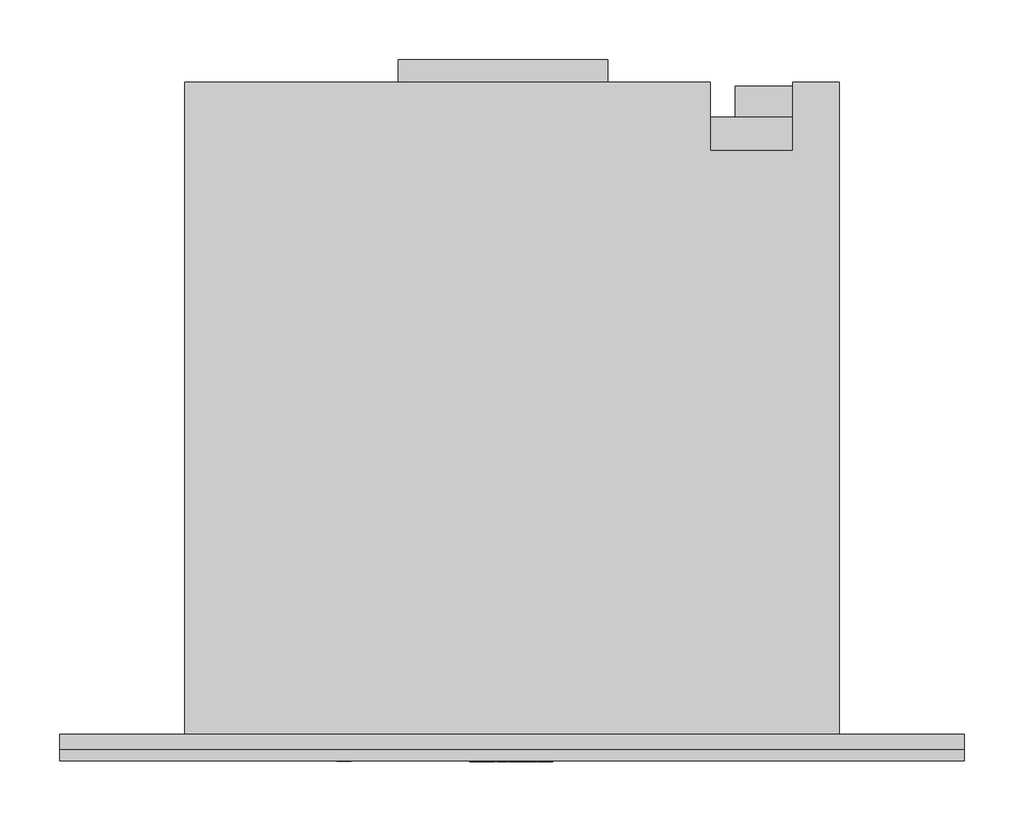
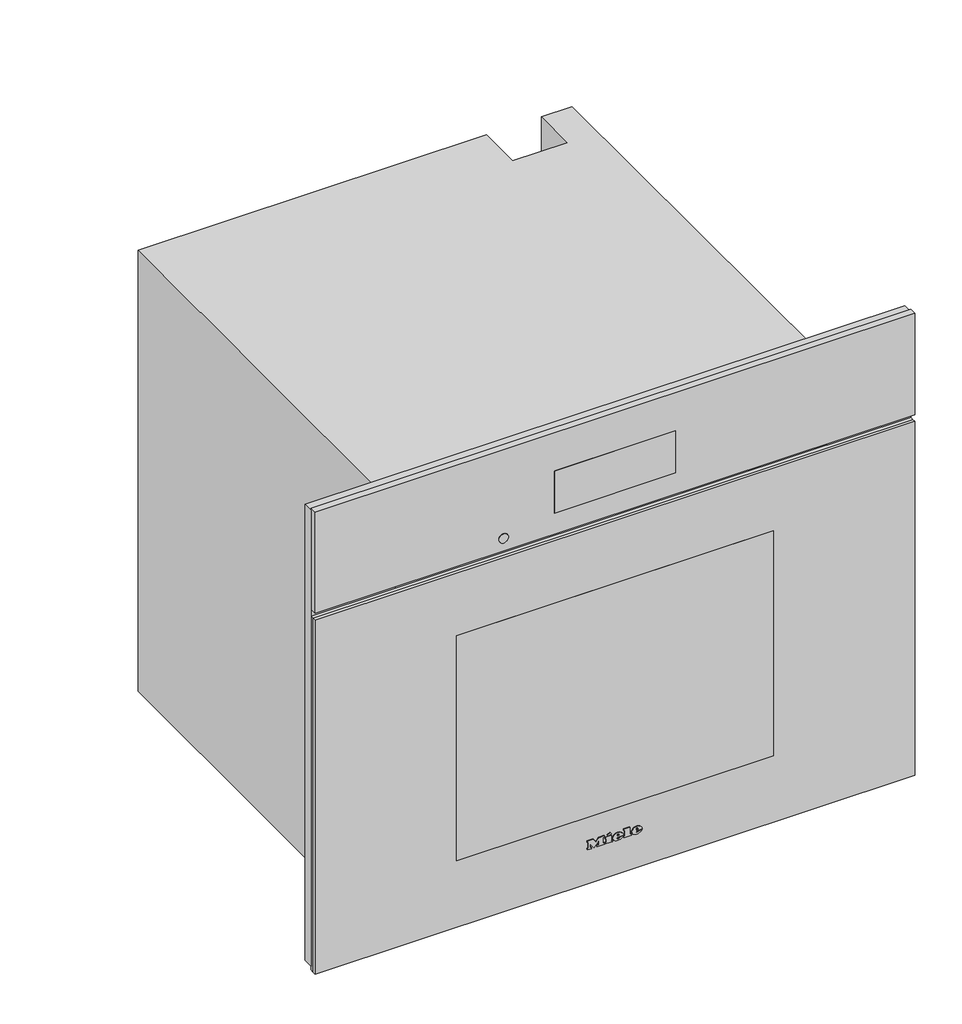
# Not in any storey: 1 proxy.
"""IFC4 building model written with IfcOpenShell, lengths in millimetres."""

import ifcopenshell
import ifcopenshell.guid

model = None  # the IFC model being written
_history = None  # IfcOwnerHistory: only IFC2X3 demands one
_inside = {}  # id of a spatial element -> (the spatial element, [elements in it])
_under = {}  # id of a project, library or spatial element -> (it, [spatial elements below it])
_declared = {}  # id of a project -> (the project, [libraries it declares])
_typed = {}  # id of a type object -> (the type object, [elements of that type])
_made_of = {}  # id of a material, layer set ... -> (it, [elements and type objects made of it])


def new_model(schema):
    """Start an empty IFC model of exactly this schema.

    Asked for "IFC4X3", IfcOpenShell would pick the latest addendum, in which some entities
    have other attributes; the version numbers below select the first issue.
    IFC2X3 requires an IfcOwnerHistory on every rooted entity: one is made here for all.
    """
    global model, _history
    if schema == "IFC4X3":
        model = ifcopenshell.file(schema_version=(4, 3, 0, 0))
    else:
        model = ifcopenshell.file(schema=schema)
    _inside.clear()
    _under.clear()
    _declared.clear()
    _typed.clear()
    _made_of.clear()
    _history = None
    if model.schema == "IFC2X3":
        org = make("IfcOrganization", Name="unknown")
        user = make(
            "IfcPersonAndOrganization",
            ThePerson=make("IfcPerson", FamilyName="unknown"),
            TheOrganization=org,
        )
        app = make(
            "IfcApplication",
            ApplicationDeveloper=org,
            Version="unknown",
            ApplicationFullName="unknown",
            ApplicationIdentifier="unknown",
        )
        _history = make(
            "IfcOwnerHistory",
            OwningUser=user,
            OwningApplication=app,
            ChangeAction="ADDED",
            CreationDate=0,
        )
    return model


def make(cls, **values):
    """One entity of the class cls with the attributes given. An attribute that is None is left unset."""
    return model.create_entity(
        cls, **{name: value for name, value in values.items() if value is not None}
    )


def rooted(cls, **values):
    """An entity with a GlobalId (a new one), such as an element, a storey or a relation."""
    return make(cls, GlobalId=ifcopenshell.guid.new(), OwnerHistory=_history, **values)


def si_unit(unit_type, name, prefix=None):
    """IfcSIUnit, for example si_unit("LENGTHUNIT", "METRE", prefix="MILLI")."""
    return make("IfcSIUnit", UnitType=unit_type, Prefix=prefix, Name=name)


def assignment(units):
    """IfcUnitAssignment: the units of a project."""
    return None if units is None else make("IfcUnitAssignment", Units=units)


def point(xyz):
    """IfcCartesianPoint."""
    return None if xyz is None else make("IfcCartesianPoint", Coordinates=xyz)


def direction(xyz):
    """IfcDirection."""
    return None if xyz is None else make("IfcDirection", DirectionRatios=xyz)


def frame(location, z_axis=None, x_axis=None):
    """IfcAxis2Placement3D, a coordinate frame: its origin and axes. An axis left out is left unset."""
    return make(
        "IfcAxis2Placement3D",
        Location=point(location),
        Axis=direction(z_axis),
        RefDirection=direction(x_axis),
    )


def frame_2d(location, x_axis=None):
    """IfcAxis2Placement2D, a coordinate frame in the plane: its origin and x axis."""
    return make(
        "IfcAxis2Placement2D", Location=point(location), RefDirection=direction(x_axis)
    )


def origin():
    """The frame at (0, 0, 0) with its axes left unset."""
    return frame((0.0, 0.0, 0.0))


def place(relative_to, where):
    """IfcLocalPlacement: puts the frame where relative to a parent placement (None: the world)."""
    return make(
        "IfcLocalPlacement", PlacementRelTo=relative_to, RelativePlacement=where
    )


def context(
    kind, dimensions, precision=None, world=None, true_north=None, identifier=None
):
    """IfcGeometricRepresentationContext, for example the 3D "Model" context."""
    return make(
        "IfcGeometricRepresentationContext",
        ContextIdentifier=identifier,
        ContextType=kind,
        CoordinateSpaceDimension=dimensions,
        Precision=precision,
        WorldCoordinateSystem=world,
        TrueNorth=true_north,
    )


def project(units=None, contexts=None):
    """IfcProject with its units and contexts."""
    return rooted(
        "IfcProject",
        Name="project",
        RepresentationContexts=contexts,
        UnitsInContext=assignment(units),
    )


def spatial(cls, under=None, at=None, **own):
    """A site, building, storey or space (cls), placed at a placement, below another one or the project."""
    s = rooted(cls, ObjectPlacement=at, **own)
    if under is not None:
        _under.setdefault(under.id(), (under, []))[1].append(s)
    return s


def polyline(points):
    """IfcPolyline through the points."""
    return make("IfcPolyline", Points=[point(p) for p in points])


def circle_curve(where, radius):
    """IfcCircle in the frame where."""
    return make("IfcCircle", Position=where, Radius=radius)


def ellipse_curve(where, semi_axis1, semi_axis2):
    """IfcEllipse in the frame where."""
    return make(
        "IfcEllipse", Position=where, SemiAxis1=semi_axis1, SemiAxis2=semi_axis2
    )


def trimmed(basis, trim1, trim2, sense, master):
    """IfcTrimmedCurve: the piece of a basis curve between two trims."""
    return make(
        "IfcTrimmedCurve",
        BasisCurve=basis,
        Trim1=trim1,
        Trim2=trim2,
        SenseAgreement=sense,
        MasterRepresentation=master,
    )


def segment(curve, same_sense, transition):
    """IfcCompositeCurveSegment."""
    return make(
        "IfcCompositeCurveSegment",
        Transition=transition,
        SameSense=same_sense,
        ParentCurve=curve,
    )


def composite_curve(segments, self_intersect=None):
    """IfcCompositeCurve: segments joined end to end."""
    return make("IfcCompositeCurve", Segments=segments, SelfIntersect=self_intersect)


def outline(outer, holes=None, kind="AREA"):
    """IfcArbitraryClosedProfileDef: a profile drawn as a closed curve; with holes, ...WithVoids."""
    if holes is None:
        return make("IfcArbitraryClosedProfileDef", ProfileType=kind, OuterCurve=outer)
    return make(
        "IfcArbitraryProfileDefWithVoids",
        ProfileType=kind,
        OuterCurve=outer,
        InnerCurves=holes,
    )


def extrude(swept, where, along, depth):
    """IfcExtrudedAreaSolid: the profile swept, set in the frame where, extruded along a direction by depth."""
    return make(
        "IfcExtrudedAreaSolid",
        SweptArea=swept,
        Position=where,
        ExtrudedDirection=direction(along),
        Depth=depth,
    )


def faces_of(points, faces, orient=None, outer=None):
    """IfcFace entities. A face is a list of loops; a loop is a list of indices into points, from 0.

    orient and outer hold one flag for each loop. By default every Orientation is true, the
    first loop of a face is its IfcFaceOuterBound and the others are IfcFaceBound.
    """
    made = []
    for i, loops in enumerate(faces):
        bounds = []
        for j, loop in enumerate(loops):
            is_outer = j == 0 if outer is None else outer[i][j]
            bounds.append(
                make(
                    "IfcFaceOuterBound" if is_outer else "IfcFaceBound",
                    Bound=make("IfcPolyLoop", Polygon=[points[k] for k in loop]),
                    Orientation=True if orient is None else orient[i][j],
                )
            )
        made.append(make("IfcFace", Bounds=bounds))
    return made


def faceted_brep(points, faces, orient=None, outer=None, voids=None):
    """IfcFacetedBrep: a solid bounded by flat faces; with voids (closed shells), ...WithVoids."""
    shared = [point(p) for p in points]
    hull = make("IfcClosedShell", CfsFaces=faces_of(shared, faces, orient, outer))
    if voids is None:
        return make("IfcFacetedBrep", Outer=hull)
    return make(
        "IfcFacetedBrepWithVoids",
        Outer=hull,
        Voids=[
            make(cls, CfsFaces=faces_of(shared, fs, o, b)) for cls, fs, o, b in voids
        ],
    )


def shape(context_of_items, identifier, shape_type, items):
    """IfcShapeRepresentation: the items that make up one representation, for example the "Body"."""
    return make(
        "IfcShapeRepresentation",
        ContextOfItems=context_of_items,
        RepresentationIdentifier=identifier,
        RepresentationType=shape_type,
        Items=items,
    )


def source(mapping_origin, context_of_items, identifier, shape_type, items):
    """IfcRepresentationMap: a shape defined once, which mapped items show again and again."""
    return make(
        "IfcRepresentationMap",
        MappingOrigin=mapping_origin,
        MappedRepresentation=shape(context_of_items, identifier, shape_type, items),
    )


def transform(
    local_origin,
    x_axis=None,
    y_axis=None,
    z_axis=None,
    scale=None,
    scale2=None,
    scale3=None,
    uniform=True,
):
    """IfcCartesianTransformationOperator3D, or its non-uniform kind. x_axis, y_axis, z_axis: its Axis1, 2, 3."""
    if uniform:
        return make(
            "IfcCartesianTransformationOperator3D",
            Axis1=direction(x_axis),
            Axis2=direction(y_axis),
            LocalOrigin=point(local_origin),
            Scale=scale,
            Axis3=direction(z_axis),
        )
    return make(
        "IfcCartesianTransformationOperator3DnonUniform",
        Axis1=direction(x_axis),
        Axis2=direction(y_axis),
        LocalOrigin=point(local_origin),
        Scale=scale,
        Axis3=direction(z_axis),
        Scale2=scale2,
        Scale3=scale3,
    )


def mapped(mapping_source, mapping_target):
    """IfcMappedItem: shows the shape of a source again, moved by a transform."""
    return make(
        "IfcMappedItem", MappingSource=mapping_source, MappingTarget=mapping_target
    )


def made_of(thing, what):
    """Note that an element or type object is made of a material, layer set ...; save() writes the relation."""
    if what is not None:
        _made_of.setdefault(what.id(), (what, []))[1].append(thing)
    return thing


def element(
    cls,
    number,
    at=None,
    inside=None,
    cuts=None,
    type_object=None,
    material=None,
    context=None,
    identifier="Body",
    shape_type=None,
    held_by="IfcProductDefinitionShape",
    body=None,
    shapes=None,
    **own,
):
    """One element of the class cls, such as IfcWall. Its Tag is "e" and its number.

    at: its placement. inside: the storey or other place that contains it. cuts: it is an
    opening in that element (IfcRelVoidsElement). A single representation is given by context,
    identifier, shape_type and body (its items); several are given by shapes. held_by: the class
    of the entity that holds the representations. save() writes the other relations.
    """
    e = rooted(cls, Tag="e%d" % number, ObjectPlacement=at, **own)
    if body is not None:
        shapes = [shape(context, identifier, shape_type, body)]
    if shapes is not None:
        e.Representation = make(held_by, Representations=shapes)
    if inside is not None:
        _inside.setdefault(inside.id(), (inside, []))[1].append(e)
    if cuts is not None:
        rooted(
            "IfcRelVoidsElement", RelatingBuildingElement=cuts, RelatedOpeningElement=e
        )
    if type_object is not None:
        _typed.setdefault(type_object.id(), (type_object, []))[1].append(e)
    return made_of(e, material)


def aggregate(whole, parts):
    """IfcRelAggregates: a whole, such as a stair, and the parts it consists of."""
    return rooted("IfcRelAggregates", RelatingObject=whole, RelatedObjects=parts)


def save(model, path):
    """Write the relations noted so far, then the file.

    IfcRelAggregates (storeys below a building ...), IfcRelContainedInSpatialStructure (elements
    in a storey), IfcRelDefinesByType, IfcRelAssociatesMaterial and IfcRelDeclares: one each for
    every whole, place, type object, material and project.
    """
    for whole, parts in _under.values():
        aggregate(whole, parts)
    for where, things in _inside.values():
        rooted(
            "IfcRelContainedInSpatialStructure",
            RelatedElements=things,
            RelatingStructure=where,
        )
    for kind, things in _typed.values():
        rooted("IfcRelDefinesByType", RelatedObjects=things, RelatingType=kind)
    for what, things in _made_of.values():
        rooted("IfcRelAssociatesMaterial", RelatedObjects=things, RelatingMaterial=what)
    for by, libraries in _declared.values():
        rooted("IfcRelDeclares", RelatingContext=by, RelatedDefinitions=libraries)
    model.write(path)


def plane_surface(at):
    """IfcPlane: the flat surface through the origin of the frame at, square to its z axis."""
    return make("IfcPlane", Position=at)


def cylinder_surface(at, radius):
    """IfcCylindricalSurface: all points at the distance radius from the z axis of the frame at."""
    return make("IfcCylindricalSurface", Position=at, Radius=radius)


def revolved_surface(curve, axis_point, axis_direction):
    """IfcSurfaceOfRevolution: the curve turned about the line through axis_point along axis_direction."""
    return make(
        "IfcSurfaceOfRevolution",
        SweptCurve=make("IfcArbitraryOpenProfileDef", ProfileType="CURVE", Curve=curve),
        AxisPosition=make("IfcAxis1Placement", Location=point(axis_point), Axis=direction(axis_direction)),
    )


def extruded_surface(curve, direction_of_extrusion, depth):
    """IfcSurfaceOfLinearExtrusion: the curve pushed along a direction by depth."""
    return make(
        "IfcSurfaceOfLinearExtrusion",
        SweptCurve=make("IfcArbitraryOpenProfileDef", ProfileType="CURVE", Curve=curve),
        ExtrudedDirection=direction(direction_of_extrusion),
        Depth=depth,
    )


def advanced_brep(points, edges, surfaces, faces):
    """IfcAdvancedBrep: a solid bounded by faces that lie on surfaces and meet in shared edges.

    An edge is (start, end): straight between two places in points (the first is 0);
    or (start, end, curve); or (start, end, curve, False) where it runs against its curve.
    A face is (place in surfaces, loops), or (place, loops, False) where it looks against
    its surface's normal. A loop lists edges by number (the first is 1), with a minus sign
    where the edge is run from its end to its start. The first loop is the outer one.
    """
    corners = [point(p) for p in points]
    vertices = [make("IfcVertexPoint", VertexGeometry=c) for c in corners]
    made = []
    for start, end, *more in edges:
        made.append(
            make(
                "IfcEdgeCurve",
                EdgeStart=vertices[start],
                EdgeEnd=vertices[end],
                EdgeGeometry=more[0] if more else make("IfcPolyline", Points=[corners[start], corners[end]]),
                SameSense=more[1] if len(more) > 1 else True,
            )
        )
    hull = []
    for where, loops, *sense in faces:
        bounds = []
        for j, loop in enumerate(loops):
            ring = [make("IfcOrientedEdge", EdgeElement=made[abs(k) - 1], Orientation=k > 0) for k in loop]
            bounds.append(
                make(
                    "IfcFaceOuterBound" if j == 0 else "IfcFaceBound",
                    Bound=make("IfcEdgeLoop", EdgeList=ring),
                    Orientation=True,
                )
            )
        hull.append(make("IfcAdvancedFace", Bounds=bounds, FaceSurface=surfaces[where], SameSense=sense[0] if sense else True))
    return make("IfcAdvancedBrep", Outer=make("IfcClosedShell", CfsFaces=hull))


def specialty_equipment_e7a922d9(model_context):
    return source(origin(), model_context, "Body", "SolidModel", [
        faceted_brep([(378.5, -13.0, 617.0), (-378.5, -13.0, 617.0), (-378.5, -13.0, 9.0), (-272.5, -13.0, 9.0), (-272.5, -13.0, 485.0), (272.5, -13.0, 485.0), (272.5, -13.0, 9.0), (378.5, -13.0, 9.0), (378.5, 0.0, 617.0), (378.5, 0.0, 9.0), (-378.5, 0.0, 9.0), (-378.5, 0.0, 617.0), (231.0, 0.0, 61.0), (231.0, 0.0, 411.0), (-231.0, 0.0, 411.0), (-231.0, 0.0, 61.0), (272.5, -5.0, 9.0), (-272.5, -5.0, 9.0), (-272.5, -5.0, 485.0), (272.5, -5.0, 485.0), (231.0, -5.0, 411.0), (231.0, -5.0, 61.0), (-231.0, -5.0, 61.0), (-231.0, -5.0, 411.0)], [[[0, 1, 2, 3, 4, 5, 6, 7]], [[8, 9, 10, 11], [12, 13, 14, 15]], [[1, 0, 8, 11]], [[2, 1, 11, 10]], [[10, 9, 7, 6, 16, 17, 3, 2]], [[0, 7, 9, 8]], [[18, 19, 5, 4]], [[18, 4, 3, 17]], [[5, 19, 16, 6]], [[19, 18, 17, 16], [20, 21, 22, 23]], [[20, 13, 12, 21]], [[21, 12, 15, 22]], [[22, 15, 14, 23]], [[13, 20, 23, 14]]]),
        extrude(outline(polyline([(-95.0, 565.0), (80.0, 565.0), (80.0, 546.0), (-95.0, 546.0), (-95.0, 565.0)])), frame((0.0, 0.0, 311.0), z_axis=(0.0, 0.0, 1.0), x_axis=(1.0, 0.0, 0.0)), (0.0, 0.0, 1.0), 1.0),
        extrude(outline(polyline([(218.8383288, 522.0), (225.1236409, 522.0), (225.1236409, 511.9492425), (223.8571792, 511.9492425), (223.8571792, 520.7409796), (218.8383288, 520.7409796), (218.8383288, 522.0)])), frame((0.0, 0.0, 272.0), z_axis=(0.0, 0.0, 1.0), x_axis=(1.0, 0.0, 0.0)), (0.0, 0.0, 1.0), 1.0),
        extrude(outline(polyline([(227.0, 522.0), (234.3797826, 522.0), (234.3797826, 511.9503529), (227.15422, 511.9503529), (227.15422, 513.220938), (233.1355215, 513.220938), (233.1355215, 516.1975645), (227.4863097, 516.1975645), (227.4863097, 517.449242), (233.1355215, 517.449242), (233.1355215, 520.7448633), (227.0, 520.7448633), (227.0, 522.0)])), frame((0.0, 0.0, 272.0), z_axis=(0.0, 0.0, 1.0), x_axis=(1.0, 0.0, 0.0)), (0.0, 0.0, 1.0), 1.0),
        extrude(outline(composite_curve([segment(trimmed(circle_curve(frame_2d((227.0, 517.0)), 7.5), [point((219.5, 517.0))], [point((234.5, 517.0))], False, "CARTESIAN"), True, "CONTINUOUS"), segment(trimmed(circle_curve(frame_2d((227.0, 517.0)), 7.5), [point((234.5, 517.0))], [point((219.5, 517.0))], False, "CARTESIAN"), True, "CONTINUOUS")], self_intersect=False)), frame((0.0, 0.0, 273.0), z_axis=(0.0, 0.0, 1.0), x_axis=(1.0, 0.0, 0.0)), (0.0, 0.0, 1.0), 30.0),
        extrude(outline(polyline([(266.0, 517.0), (187.0, 517.0), (187.0, 543.0), (266.0, 543.0), (266.0, 517.0)])), frame((0.0, 0.0, 303.0), z_axis=(0.0, 0.0, 1.0), x_axis=(1.0, 0.0, 0.0)), (0.0, 0.0, 1.0), 111.0),
        faceted_brep([(-274.0, 546.0, 0.0), (-274.0, 546.0, 588.0), (166.0, 546.0, 588.0), (166.0, 546.0, 0.0), (235.0, 546.0, 588.0), (274.0, 546.0, 588.0), (274.0, 546.0, 478.0), (235.0, 546.0, 478.0), (274.0, 0.0, 588.0), (-274.0, 0.0, 588.0), (-274.0, 0.0, 0.0), (274.0, 0.0, 0.0), (231.0, 0.0, 411.0), (231.0, 0.0, 61.0), (-231.0, 0.0, 61.0), (-231.0, 0.0, 411.0), (235.0, 489.0, 588.0), (166.0, 489.0, 588.0), (166.0, 517.0, 0.0), (274.0, 517.0, 0.0), (274.0, 517.0, 478.0), (231.0, 411.0, 411.0), (-231.0, 411.0, 411.0), (-231.0, 411.0, 61.0), (231.0, 411.0, 61.0), (235.0, 489.0, 477.0), (166.0, 489.0, 477.0), (166.0, 517.0, 477.0), (235.0, 517.0, 477.0), (235.0, 517.0, 478.0)], [[[0, 1, 2, 3]], [[4, 5, 6, 7]], [[8, 9, 10, 11], [12, 13, 14, 15]], [[9, 8, 5, 4, 16, 17, 2, 1]], [[1, 0, 10, 9]], [[11, 10, 0, 3, 18, 19]], [[8, 11, 19, 20, 6, 5]], [[21, 22, 23, 24]], [[21, 24, 13, 12]], [[24, 23, 14, 13]], [[23, 22, 15, 14]], [[22, 21, 12, 15]], [[16, 25, 26, 17]], [[17, 26, 27, 18, 3, 2]], [[26, 25, 28, 27]], [[25, 16, 4, 7, 29, 28]], [[29, 20, 19, 18, 27, 28]], [[20, 29, 7, 6]]]),
        advanced_brep(
        [(26.2998, -23.0, 52.7018), (26.2998, -23.0, 53.8532), (33.9264, -23.0, 53.8532), (20.6568, -23.0, 53.8532), (23.7918, -23.0, 50.0), (33.7326, -23.0, 52.7018), (30.2898, -23.0, 52.7018), (27.5766, -23.0, 51.425), (26.2998, -23.0, 55.3124), (26.2998, -23.0, 56.555), (28.2492, -23.0, 56.555), (28.2492, -23.0, 55.3124), (26.2998, -22.0, 52.7018), (27.5766, -22.0, 51.425), (30.2898, -22.0, 52.7018), (33.7326, -22.0, 52.7018), (23.7918, -22.0, 50.0), (20.6568, -22.0, 53.8532), (33.9264, -22.0, 53.8532), (26.2998, -22.0, 53.8532), (26.2998, -22.0, 55.3124), (28.2492, -22.0, 55.3124), (28.2492, -22.0, 56.555), (26.2998, -22.0, 56.555)],
        [
            (0, 1),
            (1, 2),
            (2, 3, ellipse_curve(frame((27.2916, -23.0, 53.8532), z_axis=(0.0, -1.0, 0.0), x_axis=(-1.0, 0.0, 0.0)), 6.6348, 5.4834)),
            (3, 4, circle_curve(frame((25.0686622, -23.0, 54.2408), z_axis=(0.0, -1.0, 0.0), x_axis=(0.0, 0.0, -1.0)), 4.4288556)),
            (4, 5, circle_curve(frame((27.1587808, -23.0, 57.2504), z_axis=(0.0, -1.0, 0.0), x_axis=(0.0, 0.0, -1.0)), 7.9940516)),
            (5, 6),
            (6, 7, circle_curve(frame((28.1338588, -23.0, 53.762), z_axis=(0.0, 1.0, 0.0), x_axis=(0.0, 0.0, -1.0)), 2.4025208)),
            (7, 0, circle_curve(frame((27.5766, -23.0, 52.7018), z_axis=(0.0, 1.0, 0.0), x_axis=(0.0, 0.0, -1.0)), 1.2768)),
            (8, 9),
            (9, 10, circle_curve(frame((27.2745, -23.0, 56.555), z_axis=(0.0, 1.0, 0.0), x_axis=(0.0, 0.0, -1.0)), 0.9747)),
            (10, 11),
            (11, 8),
            (12, 13, circle_curve(frame((27.5766, -22.0, 52.7018), z_axis=(0.0, -1.0, 0.0), x_axis=(0.0, 0.0, -1.0)), 1.2768)),
            (13, 14, circle_curve(frame((28.1338588, -22.0, 53.762), z_axis=(0.0, -1.0, 0.0), x_axis=(0.0, 0.0, -1.0)), 2.4025208)),
            (14, 15),
            (15, 16, circle_curve(frame((27.1587808, -22.0, 57.2504), z_axis=(0.0, 1.0, 0.0), x_axis=(0.0, 0.0, -1.0)), 7.9940516)),
            (16, 17, circle_curve(frame((25.0686622, -22.0, 54.2408), z_axis=(0.0, 1.0, 0.0), x_axis=(0.0, 0.0, -1.0)), 4.4288556)),
            (17, 18, ellipse_curve(frame((27.2916, -22.0, 53.8532), z_axis=(0.0, 1.0, 0.0), x_axis=(-1.0, 0.0, 0.0)), 6.6348, 5.4834)),
            (18, 19),
            (19, 12),
            (20, 21),
            (21, 22),
            (22, 23, circle_curve(frame((27.2745, -22.0, 56.555), z_axis=(0.0, -1.0, 0.0), x_axis=(0.0, 0.0, -1.0)), 0.9747)),
            (23, 20),
            (0, 12),
            (19, 1),
            (18, 2),
            (5, 15),
            (14, 6),
            (17, 3),
            (13, 7),
            (16, 4),
            (8, 20),
            (23, 9),
            (22, 10),
            (21, 11),
        ],
        [
            plane_surface(frame((26.2998, -23.0, 53.8532), z_axis=(0.0, -1.0, 0.0), x_axis=(0.0, 0.0, 1.0))),
            plane_surface(frame((26.2998, -22.0, 53.8532), z_axis=(0.0, 1.0, 0.0), x_axis=(0.0, 0.0, -1.0))),
            plane_surface(frame((26.2998, -23.0, 52.7018), z_axis=(1.0, 0.0, 0.0), x_axis=(0.0, 1.0, 0.0))),
            plane_surface(frame((26.2998, -23.0, 53.8532), z_axis=(0.0, 0.0, -1.0), x_axis=(0.0, 1.0, 0.0))),
            plane_surface(frame((33.7326, -23.0, 52.7018), z_axis=(0.0, 0.0, 1.0), x_axis=(0.0, 1.0, 0.0))),
            extruded_surface(trimmed(ellipse_curve(frame((27.2916, -21.0, 53.8532), z_axis=(0.0, -1.0, 0.0), x_axis=(-1.0, 0.0, 0.0)), 6.6348, 5.4834), [point((33.9264, -21.0, 53.8532))], [point((20.6568, -21.0, 53.8532))], True, "CARTESIAN"), (0.0, -1.0, 0.0), 1.0),
            revolved_surface(polyline([(28.1338588, -22.0, 51.3594792), (28.1338588, -23.0, 51.3594792)]), (28.1338588, -22.0, 53.762), (0.0, 1.0, 0.0)),
            revolved_surface(polyline([(27.5766, -22.0, 51.425), (27.5766, -23.0, 51.425)]), (27.5766, -22.0, 52.7018), (0.0, 1.0, 0.0)),
            cylinder_surface(frame((25.0686622, -22.0, 54.2408), z_axis=(0.0, -1.0, 0.0), x_axis=(0.0, 0.0, -1.0)), 4.4288556),
            cylinder_surface(frame((27.1587808, -22.0, 57.2504), z_axis=(0.0, -1.0, 0.0), x_axis=(0.0, 0.0, -1.0)), 7.9940516),
            plane_surface(frame((26.2998, -23.0, 55.3124), z_axis=(1.0, 0.0, 0.0), x_axis=(0.0, 1.0, 0.0))),
            revolved_surface(polyline([(27.2745, -22.0, 55.5803), (27.2745, -23.0, 55.5803)]), (27.2745, -22.0, 56.555), (0.0, 1.0, 0.0)),
            plane_surface(frame((28.2492, -23.0, 56.555), z_axis=(-1.0, 0.0, 0.0), x_axis=(0.0, 1.0, 0.0))),
            plane_surface(frame((28.2492, -23.0, 55.3124), z_axis=(0.0, 0.0, 1.0), x_axis=(0.0, 1.0, 0.0))),
        ],
        [
            (0, [[1, 2, 3, 4, 5, 6, 7, 8], [9, 10, 11, 12]]),
            (1, [[13, 14, 15, 16, 17, 18, 19, 20], [21, 22, 23, 24]]),
            (2, [[-1, 25, -20, 26]]),
            (3, [[-2, -26, -19, 27]]),
            (4, [[-6, 28, -15, 29]]),
            (5, [[-3, -27, -18, 30]]),
            (6, [[-7, -29, -14, 31]]),
            (7, [[-8, -31, -13, -25]]),
            (8, [[-4, -30, -17, 32]]),
            (9, [[-5, -32, -16, -28]]),
            (10, [[-9, 33, -24, 34]]),
            (11, [[-10, -34, -23, 35]]),
            (12, [[-11, -35, -22, 36]]),
            (13, [[-12, -36, -21, -33]]),
        ],
    ),
        advanced_brep(
        [(2.508, -23.0, 52.7018), (2.508, -23.0, 53.8532), (10.1346, -23.0, 53.8532), (-3.135, -23.0, 53.8532), (0.0, -23.0, 50.0), (9.9408, -23.0, 52.7018), (6.498, -23.0, 52.7018), (3.7848, -23.0, 51.425), (2.508, -23.0, 55.3124), (2.508, -23.0, 56.555), (4.4574, -23.0, 56.555), (4.4574, -23.0, 55.3124), (2.508, -22.0, 52.7018), (3.7848, -22.0, 51.425), (6.498, -22.0, 52.7018), (9.9408, -22.0, 52.7018), (0.0, -22.0, 50.0), (-3.135, -22.0, 53.8532), (10.1346, -22.0, 53.8532), (2.508, -22.0, 53.8532), (2.508, -22.0, 55.3124), (4.4574, -22.0, 55.3124), (4.4574, -22.0, 56.555), (2.508, -22.0, 56.555)],
        [
            (0, 1),
            (1, 2),
            (2, 3, ellipse_curve(frame((3.4998, -23.0, 53.8532), z_axis=(0.0, -1.0, 0.0), x_axis=(-1.0, 0.0, 0.0)), 6.6348, 5.4834)),
            (3, 4, circle_curve(frame((1.2768622, -23.0, 54.2408), z_axis=(0.0, -1.0, 0.0), x_axis=(0.0, 0.0, -1.0)), 4.4288556)),
            (4, 5, circle_curve(frame((3.3669808, -23.0, 57.2504), z_axis=(0.0, -1.0, 0.0), x_axis=(0.0, 0.0, -1.0)), 7.9940516)),
            (5, 6),
            (6, 7, circle_curve(frame((4.3420588, -23.0, 53.762), z_axis=(0.0, 1.0, 0.0), x_axis=(0.0, 0.0, -1.0)), 2.4025208)),
            (7, 0, circle_curve(frame((3.7848, -23.0, 52.7018), z_axis=(0.0, 1.0, 0.0), x_axis=(0.0, 0.0, -1.0)), 1.2768)),
            (8, 9),
            (9, 10, circle_curve(frame((3.4827, -23.0, 56.555), z_axis=(0.0, 1.0, 0.0), x_axis=(0.0, 0.0, -1.0)), 0.9747)),
            (10, 11),
            (11, 8),
            (12, 13, circle_curve(frame((3.7848, -22.0, 52.7018), z_axis=(0.0, -1.0, 0.0), x_axis=(0.0, 0.0, -1.0)), 1.2768)),
            (13, 14, circle_curve(frame((4.3420588, -22.0, 53.762), z_axis=(0.0, -1.0, 0.0), x_axis=(0.0, 0.0, -1.0)), 2.4025208)),
            (14, 15),
            (15, 16, circle_curve(frame((3.3669808, -22.0, 57.2504), z_axis=(0.0, 1.0, 0.0), x_axis=(0.0, 0.0, -1.0)), 7.9940516)),
            (16, 17, circle_curve(frame((1.2768622, -22.0, 54.2408), z_axis=(0.0, 1.0, 0.0), x_axis=(0.0, 0.0, -1.0)), 4.4288556)),
            (17, 18, ellipse_curve(frame((3.4998, -22.0, 53.8532), z_axis=(0.0, 1.0, 0.0), x_axis=(-1.0, 0.0, 0.0)), 6.6348, 5.4834)),
            (18, 19),
            (19, 12),
            (20, 21),
            (21, 22),
            (22, 23, circle_curve(frame((3.4827, -22.0, 56.555), z_axis=(0.0, -1.0, 0.0), x_axis=(0.0, 0.0, -1.0)), 0.9747)),
            (23, 20),
            (0, 12),
            (19, 1),
            (18, 2),
            (5, 15),
            (14, 6),
            (17, 3),
            (13, 7),
            (16, 4),
            (8, 20),
            (23, 9),
            (22, 10),
            (21, 11),
        ],
        [
            plane_surface(frame((2.508, -23.0, 53.8532), z_axis=(0.0, -1.0, 0.0), x_axis=(0.0, 0.0, 1.0))),
            plane_surface(frame((2.508, -22.0, 53.8532), z_axis=(0.0, 1.0, 0.0), x_axis=(0.0, 0.0, -1.0))),
            plane_surface(frame((2.508, -23.0, 52.7018), z_axis=(1.0, 0.0, 0.0), x_axis=(0.0, 1.0, 0.0))),
            plane_surface(frame((2.508, -23.0, 53.8532), z_axis=(0.0, 0.0, -1.0), x_axis=(0.0, 1.0, 0.0))),
            plane_surface(frame((9.9408, -23.0, 52.7018), z_axis=(0.0, 0.0, 1.0), x_axis=(0.0, 1.0, 0.0))),
            extruded_surface(trimmed(ellipse_curve(frame((3.4998, -21.0, 53.8532), z_axis=(0.0, -1.0, 0.0), x_axis=(-1.0, 0.0, 0.0)), 6.6348, 5.4834), [point((10.1346, -21.0, 53.8532))], [point((-3.135, -21.0, 53.8532))], True, "CARTESIAN"), (0.0, -1.0, 0.0), 1.0),
            revolved_surface(polyline([(4.3420588, -22.0, 51.3594792), (4.3420588, -23.0, 51.3594792)]), (4.3420588, -22.0, 53.762), (0.0, 1.0, 0.0)),
            revolved_surface(polyline([(3.7848, -22.0, 51.425), (3.7848, -23.0, 51.425)]), (3.7848, -22.0, 52.7018), (0.0, 1.0, 0.0)),
            cylinder_surface(frame((1.2768622, -22.0, 54.2408), z_axis=(0.0, -1.0, 0.0), x_axis=(0.0, 0.0, -1.0)), 4.4288556),
            cylinder_surface(frame((3.3669808, -22.0, 57.2504), z_axis=(0.0, -1.0, 0.0), x_axis=(0.0, 0.0, -1.0)), 7.9940516),
            plane_surface(frame((2.508, -23.0, 55.3124), z_axis=(1.0, 0.0, 0.0), x_axis=(0.0, 1.0, 0.0))),
            revolved_surface(polyline([(3.4827, -22.0, 55.5803), (3.4827, -23.0, 55.5803)]), (3.4827, -22.0, 56.555), (0.0, 1.0, 0.0)),
            plane_surface(frame((4.4574, -23.0, 56.555), z_axis=(-1.0, 0.0, 0.0), x_axis=(0.0, 1.0, 0.0))),
            plane_surface(frame((4.4574, -23.0, 55.3124), z_axis=(0.0, 0.0, 1.0), x_axis=(0.0, 1.0, 0.0))),
        ],
        [
            (0, [[1, 2, 3, 4, 5, 6, 7, 8], [9, 10, 11, 12]]),
            (1, [[13, 14, 15, 16, 17, 18, 19, 20], [21, 22, 23, 24]]),
            (2, [[-1, 25, -20, 26]]),
            (3, [[-2, -26, -19, 27]]),
            (4, [[-6, 28, -15, 29]]),
            (5, [[-3, -27, -18, 30]]),
            (6, [[-7, -29, -14, 31]]),
            (7, [[-8, -31, -13, -25]]),
            (8, [[-4, -30, -17, 32]]),
            (9, [[-5, -32, -16, -28]]),
            (10, [[-9, 33, -24, 34]]),
            (11, [[-10, -34, -23, 35]]),
            (12, [[-11, -35, -22, 36]]),
            (13, [[-12, -36, -21, -33]]),
        ],
    ),
        extrude(outline(polyline([(60.7274, -9.9522), (58.8806, -9.0858), (60.6818, -5.2212), (62.5286, -6.0762), (60.7274, -9.9522)])), frame((0.0, -23.0, 0.0), z_axis=(0.0, 1.0, 0.0), x_axis=(0.0, 0.0, 1.0)), (0.0, 0.0, 1.0), 1.0),
        extrude(outline(polyline([(58.6298, -12.768), (56.5892, -12.768), (56.5892, -11.4114), (51.9152, -11.4114), (51.9152, -12.768), (50.0, -12.768), (50.0, -3.7734), (51.9152, -3.7734), (51.9152, -5.0958), (58.6298, -5.0958), (58.6298, -12.768)])), frame((0.0, -23.0, 0.0), z_axis=(0.0, 1.0, 0.0), x_axis=(0.0, 0.0, 1.0)), (0.0, 0.0, 1.0), 1.0),
        extrude(outline(polyline([(59.5418, 10.773), (59.5418, 12.141), (51.9152, 12.141), (51.9152, 10.773), (50.0, 10.773), (50.0, 20.0184), (51.9152, 20.0184), (51.9152, 18.6162), (61.4, 18.6162), (61.4, 10.773), (59.5418, 10.773)])), frame((0.0, -23.0, 0.0), z_axis=(0.0, 1.0, 0.0), x_axis=(0.0, 0.0, 1.0)), (0.0, 0.0, 1.0), 1.0),
        extrude(outline(polyline([(59.5418, -35.4882), (59.5418, -34.1088), (51.9152, -34.1088), (51.9152, -35.4882), (50.0, -35.4882), (50.0, -30.4722), (51.9152, -30.4722), (51.9152, -31.8402), (56.7429247, -31.8402), (50.0, -26.7444), (56.9402223, -21.6258), (51.9152, -21.6258), (51.9152, -23.028), (50.0, -23.028), (50.0, -13.9308), (51.9152, -13.9308), (51.9152, -15.3786), (59.5418, -15.3786), (59.5418, -13.9308), (61.4, -13.9308), (61.4, -20.8734), (57.125, -24.2022), (61.4, -27.5424), (61.4, -35.4882), (59.5418, -35.4882)])), frame((0.0, -23.0, 0.0), z_axis=(0.0, 1.0, 0.0), x_axis=(0.0, 0.0, 1.0)), (0.0, 0.0, 1.0), 1.0),
        extrude(outline(composite_curve([segment(trimmed(circle_curve(frame_2d((502.0, -140.5745637)), 6.0), [point((502.0, -146.5745637))], [point((502.0, -134.5745637))], False, "CARTESIAN"), True, "CONTINUOUS"), segment(trimmed(circle_curve(frame_2d((502.0, -140.5745637)), 6.0), [point((502.0, -134.5745637))], [point((502.0, -146.5745637))], False, "CARTESIAN"), True, "CONTINUOUS")], self_intersect=False)), frame((0.0, -22.5, 0.0), z_axis=(0.0, 1.0, 0.0), x_axis=(0.0, 0.0, 1.0)), (0.0, 0.0, 1.0), 1.0),
        extrude(outline(polyline([(-76.5, -21.0), (76.5, -21.0), (76.5, -22.0), (-76.5, -22.0), (-76.5, -21.0)])), frame((0.0, 0.0, 513.0), z_axis=(0.0, 0.0, 1.0), x_axis=(1.0, 0.0, 0.0)), (0.0, 0.0, 1.0), 56.0),
        faceted_brep([(378.5, -22.0, 620.0), (-378.5, -22.0, 620.0), (-378.5, -22.0, 485.0), (378.5, -22.0, 485.0), (76.5, -22.0, 569.0), (76.5, -22.0, 513.0), (-76.5, -22.0, 513.0), (-76.5, -22.0, 569.0), (378.5, -13.0, 620.0), (378.5, -13.0, 485.0), (-378.5, -13.0, 485.0), (-378.5, -13.0, 620.0), (76.5, -21.0, 569.0), (-76.5, -21.0, 569.0), (-76.5, -21.0, 513.0), (76.5, -21.0, 513.0)], [[[0, 1, 2, 3], [4, 5, 6, 7]], [[8, 9, 10, 11]], [[1, 0, 8, 11]], [[2, 1, 11, 10]], [[3, 2, 10, 9]], [[0, 3, 9, 8]], [[12, 13, 14, 15]], [[12, 15, 5, 4]], [[15, 14, 6, 5]], [[14, 13, 7, 6]], [[13, 12, 4, 7]]]),
        extrude(outline(polyline([(200.0, -22.0), (-200.0, -22.0), (-200.0, -18.0), (200.0, -18.0), (200.0, -22.0)])), frame((0.0, 0.0, 92.5), z_axis=(0.0, 0.0, 1.0), x_axis=(1.0, 0.0, 0.0)), (0.0, 0.0, 1.0), 300.0),
        extrude(outline(polyline([(476.0, 378.5), (476.0, -378.5), (4.0, -378.5), (4.0, 378.5), (476.0, 378.5)]), holes=[polyline([(392.5, -200.0), (392.5, 200.0), (92.5, 200.0), (92.5, -200.0), (392.5, -200.0)])]), frame((0.0, -22.0, 0.0), z_axis=(0.0, 1.0, 0.0), x_axis=(0.0, 0.0, 1.0)), (0.0, 0.0, 1.0), 4.0),
        extrude(outline(polyline([(378.5, -18.0), (-378.5, -18.0), (-378.5, -13.0), (378.5, -13.0), (378.5, -18.0)])), frame((0.0, 0.0, 4.0), z_axis=(0.0, 0.0, 1.0), x_axis=(1.0, 0.0, 0.0)), (0.0, 0.0, 1.0), 472.0),
    ])


model = new_model("IFC4")

# Units and contexts
model_context = context("Model", 3, world=origin())
ifc_project = project(units=[si_unit("LENGTHUNIT", "METRE", prefix="MILLI")], contexts=[model_context])

# Site, building
site = spatial("IfcSite", under=ifc_project)
building = spatial("IfcBuilding", under=site)

# Proxy
placement = place(None, origin())
specialty_equipment_shape = specialty_equipment_e7a922d9(model_context)
element("IfcBuildingElementProxy", 1, Name="12940260_USA_DGC7880X_OBSW : 23788063_USA_12940260_DGC7880X_OBSW", ObjectType="12940260_USA_DGC7880X_OBSW : 23788063_USA_12940260_DGC7880X_OBSW", at=placement, inside=building, context=model_context, shape_type="MappedRepresentation", body=[
    mapped(specialty_equipment_shape, transform((0.0, 0.0, 0.0), x_axis=(1.0, 0.0, 0.0), y_axis=(0.0, 1.0, 0.0), z_axis=(0.0, 0.0, 1.0))),
])

save(model, "model.ifc")
